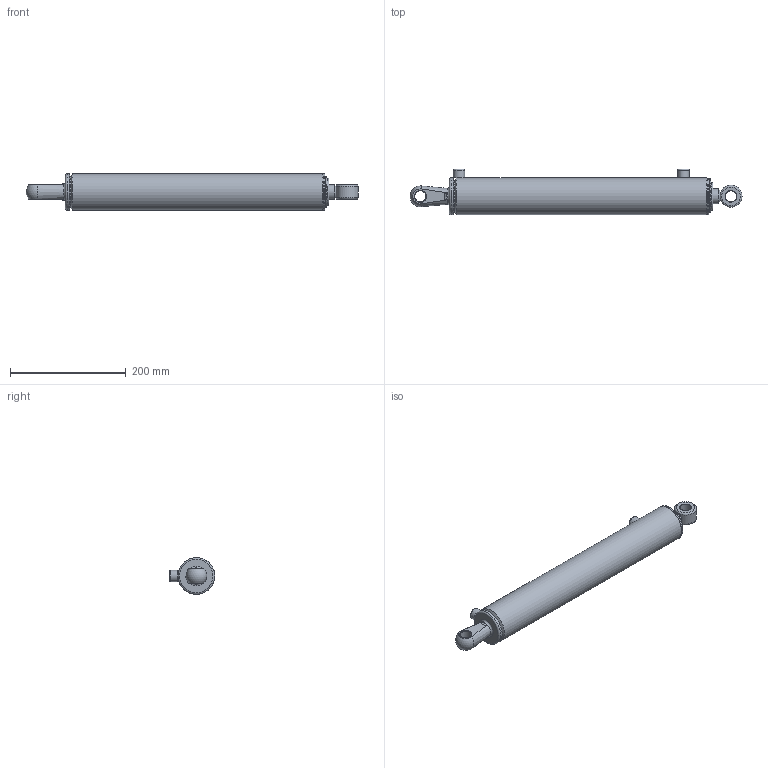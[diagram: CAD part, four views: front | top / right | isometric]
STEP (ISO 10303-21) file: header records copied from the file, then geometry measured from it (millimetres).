
FILE_DESCRIPTION(/* description */ ('Alibre Inc.'),/* implementation_level */ '2;1');
FILE_NAME(/* name */ 'export0',/* time_stamp */ '2016-08-16T09:51:51+12:00',/* author */ (''),/* organization */ (''),/* preprocessor_version */ 'ST-DEVELOPER v14',/* originating_system */ 'Alibre',/* authorisation */ '');
FILE_SCHEMA (('AUTOMOTIVE_DESIGN'));
Length unit declared in the file: centimetre
Bounding box: 573.94 x 78.5 x 63.5 mm (x, y, z)
Volume: 924906.9 mm3; surface area: 256993.9 mm2
Topology: 11 solids, 11 shells, 138 faces, 278 edges, 173 vertices
Faces by surface type: cylinder 51, plane 44, cone 27, torus 13, bspline 2, sphere 1
Full cylindrical faces by diameter (mm): 2.5 x2, 5.588 x1, 6.35 x2, 8.3 x2, 11.9 x2, 17.323 x2, 19.05 x2, 19.101 x1, 20 x2, 25.4 x1, 25.45 x2, 31.77 x1, 31.8 x1, 32.5 x1, 34.93 x2, 38.1 x1, 41.3 x2, 44.91 x1, 45.5 x1, 46.23 x2, 48 x2, 48.3 x1, 49.48 x2, 50.07 x1, 50.69 x2, 50.8 x2, 54 x1, 63.5 x3
Entity records: 3664 total; most frequent: CARTESIAN_POINT 968, DIRECTION 530, ORIENTED_EDGE 330, AXIS2_PLACEMENT_3D 283, FACE_BOUND 258, EDGE_LOOP 256, EDGE_CURVE 165, VERTEX_POINT 153
